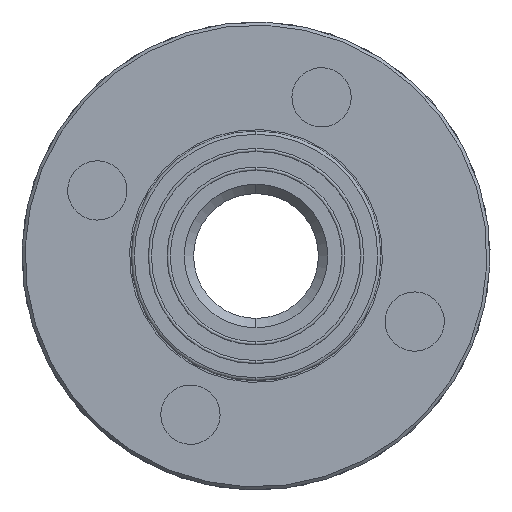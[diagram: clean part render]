
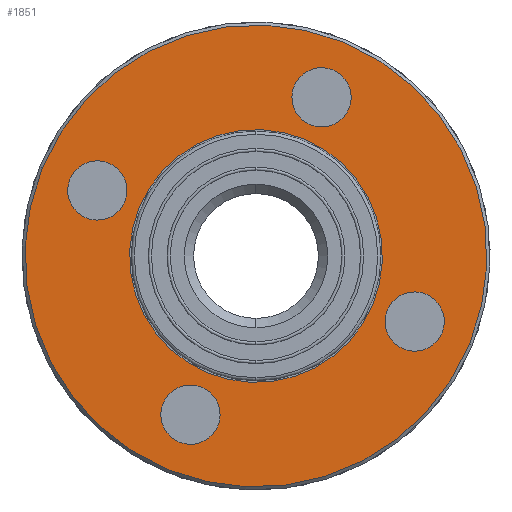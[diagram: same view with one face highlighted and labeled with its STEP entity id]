
A CAD part, left-side view. The second image highlights one B-rep face of the part: STEP entity #1851.
In plain terms, the highlighted planar face has unit normal (-1, 0, 0) as drawn and (1, 0, 0) by its records, which use the part's own axes.
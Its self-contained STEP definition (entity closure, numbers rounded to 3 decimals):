
#5 = FACE_BOUND ( 'NONE', #855, .T. ) ;
#7 = VERTEX_POINT ( 'NONE', #2635 ) ;
#8 = PLANE ( 'NONE',  #1230 ) ;
#54 = EDGE_CURVE ( 'NONE', #2533, #7, #1007, .T. ) ;
#73 = ORIENTED_EDGE ( 'NONE', *, *, #2461, .T. ) ;
#77 = CARTESIAN_POINT ( 'NONE',  ( 15., 0., 64.5 ) ) ;
#84 = DIRECTION ( 'NONE',  ( -1., 0., 0. ) ) ;
#93 = CIRCLE ( 'NONE', #1905, 9.5 ) ;
#115 = DIRECTION ( 'NONE',  ( -1., 0., 0. ) ) ;
#123 = VERTEX_POINT ( 'NONE', #2428 ) ;
#127 = DIRECTION ( 'NONE',  ( 0., 0., 1. ) ) ;
#130 = ORIENTED_EDGE ( 'NONE', *, *, #1741, .F. ) ;
#155 = VERTEX_POINT ( 'NONE', #393 ) ;
#166 = DIRECTION ( 'NONE',  ( 0., 0., 1. ) ) ;
#179 = DIRECTION ( 'NONE',  ( -1., 0., 0. ) ) ;
#188 = ORIENTED_EDGE ( 'NONE', *, *, #2415, .T. ) ;
#200 = CIRCLE ( 'NONE', #1709, 74. ) ;
#258 = CARTESIAN_POINT ( 'NONE',  ( 15., 55., 0. ) ) ;
#281 = DIRECTION ( 'NONE',  ( -1., 0., 0. ) ) ;
#296 = FACE_BOUND ( 'NONE', #1498, .T. ) ;
#322 = EDGE_LOOP ( 'NONE', ( #1664, #2289 ) ) ;
#374 = DIRECTION ( 'NONE',  ( -1., 0., 0. ) ) ;
#393 = CARTESIAN_POINT ( 'NONE',  ( 15., 0., 45.5 ) ) ;
#406 = DIRECTION ( 'NONE',  ( 0., 0., 1. ) ) ;
#419 = CIRCLE ( 'NONE', #480, 9.5 ) ;
#431 = VERTEX_POINT ( 'NONE', #501 ) ;
#480 = AXIS2_PLACEMENT_3D ( 'NONE', #1729, #281, #2521 ) ;
#499 = AXIS2_PLACEMENT_3D ( 'NONE', #875, #2110, #660 ) ;
#501 = CARTESIAN_POINT ( 'NONE',  ( 15., 0., -74. ) ) ;
#529 = DIRECTION ( 'NONE',  ( -1., 0., 0. ) ) ;
#560 = CIRCLE ( 'NONE', #2469, 9.5 ) ;
#586 = CIRCLE ( 'NONE', #2631, 9.5 ) ;
#587 = ORIENTED_EDGE ( 'NONE', *, *, #1370, .T. ) ;
#593 = CARTESIAN_POINT ( 'NONE',  ( 15., 0., 0. ) ) ;
#612 = CARTESIAN_POINT ( 'NONE',  ( 15., 0., -45.5 ) ) ;
#647 = DIRECTION ( 'NONE',  ( -1., 0., 0. ) ) ;
#660 = DIRECTION ( 'NONE',  ( 0., 0., 1. ) ) ;
#728 = DIRECTION ( 'NONE',  ( 0., 0., 1. ) ) ;
#747 = CARTESIAN_POINT ( 'NONE',  ( 15., 0., 0. ) ) ;
#818 = DIRECTION ( 'NONE',  ( -1., 0., 0. ) ) ;
#828 = CIRCLE ( 'NONE', #1971, 9.5 ) ;
#854 = DIRECTION ( 'NONE',  ( 0., 0., 1. ) ) ;
#855 = EDGE_LOOP ( 'NONE', ( #587, #1102 ) ) ;
#858 = FACE_BOUND ( 'NONE', #1303, .T. ) ;
#875 = CARTESIAN_POINT ( 'NONE',  ( 15., 0., 55. ) ) ;
#916 = CARTESIAN_POINT ( 'NONE',  ( 15., 0., -55. ) ) ;
#1007 = CIRCLE ( 'NONE', #1877, 40.5 ) ;
#1025 = FACE_BOUND ( 'NONE', #322, .T. ) ;
#1034 = VERTEX_POINT ( 'NONE', #1286 ) ;
#1038 = EDGE_CURVE ( 'NONE', #2638, #2399, #560, .T. ) ;
#1065 = EDGE_CURVE ( 'NONE', #123, #431, #2255, .T. ) ;
#1100 = ORIENTED_EDGE ( 'NONE', *, *, #1038, .T. ) ;
#1102 = ORIENTED_EDGE ( 'NONE', *, *, #1802, .T. ) ;
#1181 = DIRECTION ( 'NONE',  ( -1., 0., 0. ) ) ;
#1202 = DIRECTION ( 'NONE',  ( 0., 0., 1. ) ) ;
#1230 = AXIS2_PLACEMENT_3D ( 'NONE', #1462, #818, #2316 ) ;
#1286 = CARTESIAN_POINT ( 'NONE',  ( 15., 55., 9.5 ) ) ;
#1303 = EDGE_LOOP ( 'NONE', ( #73, #1100 ) ) ;
#1351 = DIRECTION ( 'NONE',  ( -1., 0., 0. ) ) ;
#1370 = EDGE_CURVE ( 'NONE', #1034, #2696, #2654, .T. ) ;
#1397 = ORIENTED_EDGE ( 'NONE', *, *, #54, .T. ) ;
#1399 = FACE_OUTER_BOUND ( 'NONE', #2690, .T. ) ;
#1462 = CARTESIAN_POINT ( 'NONE',  ( 15., 74., 0. ) ) ;
#1490 = CARTESIAN_POINT ( 'NONE',  ( 15., 0., -40.5 ) ) ;
#1498 = EDGE_LOOP ( 'NONE', ( #1844, #1397 ) ) ;
#1539 = DIRECTION ( 'NONE',  ( -1., 0., 0. ) ) ;
#1569 = EDGE_CURVE ( 'NONE', #7, #2533, #2284, .T. ) ;
#1574 = CIRCLE ( 'NONE', #2491, 9.5 ) ;
#1585 = CARTESIAN_POINT ( 'NONE',  ( 15., 0., -64.5 ) ) ;
#1626 = EDGE_CURVE ( 'NONE', #1647, #2300, #586, .T. ) ;
#1647 = VERTEX_POINT ( 'NONE', #2652 ) ;
#1653 = CARTESIAN_POINT ( 'NONE',  ( 15., -55., 0. ) ) ;
#1659 = EDGE_CURVE ( 'NONE', #2634, #155, #1574, .T. ) ;
#1664 = ORIENTED_EDGE ( 'NONE', *, *, #1626, .T. ) ;
#1709 = AXIS2_PLACEMENT_3D ( 'NONE', #593, #179, #1202 ) ;
#1729 = CARTESIAN_POINT ( 'NONE',  ( 15., 0., -55. ) ) ;
#1741 = EDGE_CURVE ( 'NONE', #431, #123, #200, .T. ) ;
#1745 = AXIS2_PLACEMENT_3D ( 'NONE', #747, #1181, #127 ) ;
#1747 = DIRECTION ( 'NONE',  ( 0., 0., 1. ) ) ;
#1802 = EDGE_CURVE ( 'NONE', #2696, #1034, #828, .T. ) ;
#1815 = DIRECTION ( 'NONE',  ( -1., 0., 0. ) ) ;
#1844 = ORIENTED_EDGE ( 'NONE', *, *, #1569, .T. ) ;
#1851 = ADVANCED_FACE ( 'NONE', ( #858, #1025, #2138, #5, #1399, #296 ), #8, .F. ) ;
#1877 = AXIS2_PLACEMENT_3D ( 'NONE', #2012, #1815, #166 ) ;
#1905 = AXIS2_PLACEMENT_3D ( 'NONE', #1653, #1539, #728 ) ;
#1937 = DIRECTION ( 'NONE',  ( 0., 0., 1. ) ) ;
#1971 = AXIS2_PLACEMENT_3D ( 'NONE', #2046, #374, #406 ) ;
#1987 = CIRCLE ( 'NONE', #499, 9.5 ) ;
#2012 = CARTESIAN_POINT ( 'NONE',  ( 15., 0., 0. ) ) ;
#2046 = CARTESIAN_POINT ( 'NONE',  ( 15., 55., 0. ) ) ;
#2110 = DIRECTION ( 'NONE',  ( -1., 0., 0. ) ) ;
#2138 = FACE_BOUND ( 'NONE', #2146, .T. ) ;
#2146 = EDGE_LOOP ( 'NONE', ( #2648, #188 ) ) ;
#2200 = DIRECTION ( 'NONE',  ( 0., 0., 1. ) ) ;
#2225 = ORIENTED_EDGE ( 'NONE', *, *, #1065, .F. ) ;
#2255 = CIRCLE ( 'NONE', #2551, 74. ) ;
#2284 = CIRCLE ( 'NONE', #1745, 40.5 ) ;
#2289 = ORIENTED_EDGE ( 'NONE', *, *, #2303, .T. ) ;
#2300 = VERTEX_POINT ( 'NONE', #2350 ) ;
#2303 = EDGE_CURVE ( 'NONE', #2300, #1647, #93, .T. ) ;
#2316 = DIRECTION ( 'NONE',  ( 0., 0., 1. ) ) ;
#2350 = CARTESIAN_POINT ( 'NONE',  ( 15., -55., -9.5 ) ) ;
#2381 = CARTESIAN_POINT ( 'NONE',  ( 15., 0., 0. ) ) ;
#2399 = VERTEX_POINT ( 'NONE', #612 ) ;
#2415 = EDGE_CURVE ( 'NONE', #155, #2634, #1987, .T. ) ;
#2424 = DIRECTION ( 'NONE',  ( 0., 0., 1. ) ) ;
#2428 = CARTESIAN_POINT ( 'NONE',  ( 15., 0., 74. ) ) ;
#2429 = CARTESIAN_POINT ( 'NONE',  ( 15., 0., 55. ) ) ;
#2461 = EDGE_CURVE ( 'NONE', #2399, #2638, #419, .T. ) ;
#2469 = AXIS2_PLACEMENT_3D ( 'NONE', #916, #1351, #1937 ) ;
#2491 = AXIS2_PLACEMENT_3D ( 'NONE', #2429, #115, #2200 ) ;
#2519 = AXIS2_PLACEMENT_3D ( 'NONE', #258, #647, #854 ) ;
#2521 = DIRECTION ( 'NONE',  ( 0., 0., 1. ) ) ;
#2533 = VERTEX_POINT ( 'NONE', #1490 ) ;
#2551 = AXIS2_PLACEMENT_3D ( 'NONE', #2381, #84, #1747 ) ;
#2630 = CARTESIAN_POINT ( 'NONE',  ( 15., 55., -9.5 ) ) ;
#2631 = AXIS2_PLACEMENT_3D ( 'NONE', #2637, #529, #2424 ) ;
#2634 = VERTEX_POINT ( 'NONE', #77 ) ;
#2635 = CARTESIAN_POINT ( 'NONE',  ( 15., 0., 40.5 ) ) ;
#2637 = CARTESIAN_POINT ( 'NONE',  ( 15., -55., 0. ) ) ;
#2638 = VERTEX_POINT ( 'NONE', #1585 ) ;
#2648 = ORIENTED_EDGE ( 'NONE', *, *, #1659, .T. ) ;
#2652 = CARTESIAN_POINT ( 'NONE',  ( 15., -55., 9.5 ) ) ;
#2654 = CIRCLE ( 'NONE', #2519, 9.5 ) ;
#2690 = EDGE_LOOP ( 'NONE', ( #2225, #130 ) ) ;
#2696 = VERTEX_POINT ( 'NONE', #2630 ) ;
